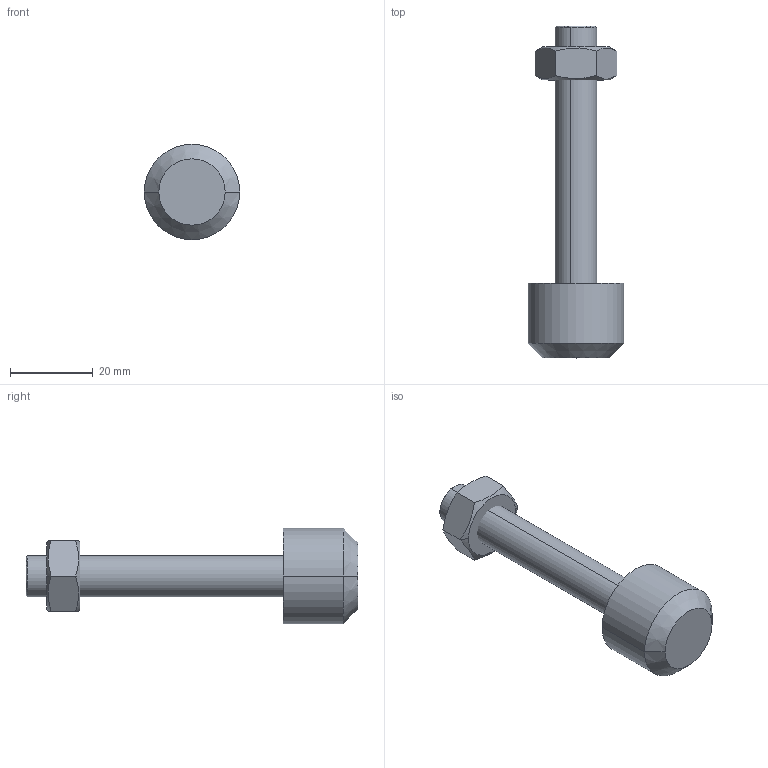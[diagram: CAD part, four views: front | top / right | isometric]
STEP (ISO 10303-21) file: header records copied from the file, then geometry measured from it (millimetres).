
FILE_DESCRIPTION (( 'STEP AP203' ), '1' );
FILE_NAME ('PB-M10.STEP', '2011-05-23T14:17:42', ( 'Usuario' ), ( '' ), 'SwSTEP 2.0', 'SolidWorks 2011', '' );
FILE_SCHEMA (( 'CONFIG_CONTROL_DESIGN' ));
Length unit declared in the file: millimetre
Products named in the file (4): 20.20011; PB-M10; 11.50003; 20.20015
Assembly tree (3 placements, depth 2):
  PB-M10
    20.20015
    11.50003
    20.20011
Bounding box: 23 x 80 x 23 mm (x, y, z)
Volume: 13360.6 mm3; surface area: 5656 mm2
Topology: 3 solids, 3 shells, 36 faces, 78 edges, 47 vertices
Faces by surface type: cone 16, plane 12, cylinder 8
Entity records: 1484 total; most frequent: CARTESIAN_POINT 289, DIRECTION 182, ORIENTED_EDGE 152, AXIS2_PLACEMENT_3D 76, EDGE_CURVE 76, VERTEX_POINT 47, EDGE_LOOP 39, FACE_OUTER_BOUND 36
